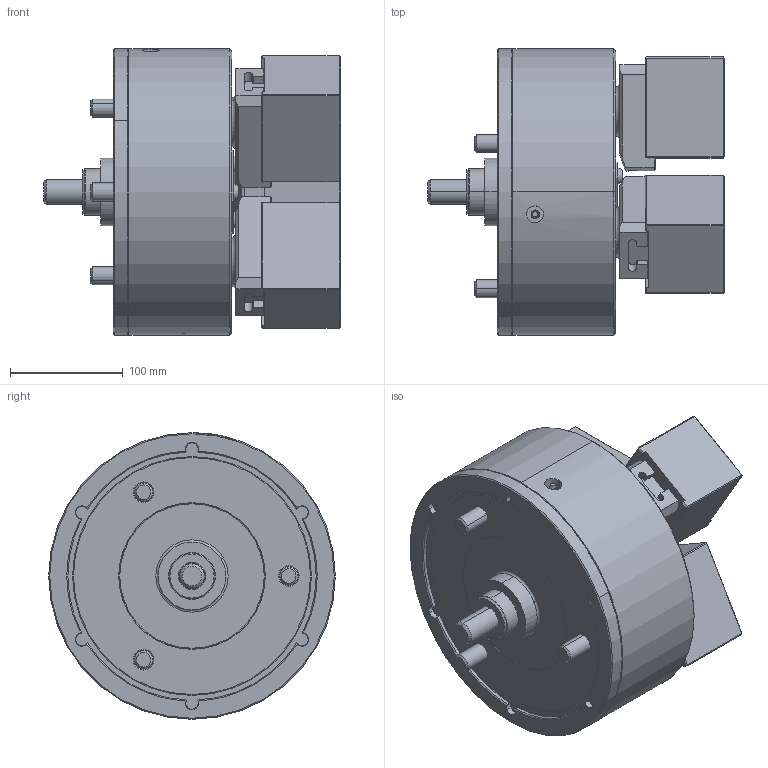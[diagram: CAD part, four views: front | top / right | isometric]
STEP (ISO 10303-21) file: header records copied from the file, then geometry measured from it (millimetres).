
FILE_DESCRIPTION (( 'STEP AP214' ), '1' );
FILE_NAME ('PW-10_CL_ID.STEP', '2019-10-07T05:23:08', ( '' ), ( '' ), 'SwSTEP 2.0', 'SolidWorks 2017', '' );
FILE_SCHEMA (( 'AUTOMOTIVE_DESIGN' ));
Length unit declared in the file: millimetre
Products named in the file (5): 結合_ID; 0030116025; 61P420193; 61P322899; PW-10_CL_ID
Assembly tree (13 placements, depth 2):
  PW-10_CL_ID
    61P322899  x3
    61P420193  x3
    0030116025  x6
    結合_ID
Bounding box: 262.8 x 254 x 254 mm (x, y, z)
Volume: 6672384.1 mm3; surface area: 497007.2 mm2
Topology: 13 solids, 14 shells, 1633 faces, 4060 edges, 2564 vertices
Faces by surface type: plane 828, cone 297, cylinder 261, bspline 189, torus 58
Entity records: 49278 total; most frequent: CARTESIAN_POINT 17987, ORIENTED_EDGE 6808, DIRECTION 5763, EDGE_CURVE 3404, VERTEX_POINT 2173, AXIS2_PLACEMENT_3D 1934, LINE 1895, VECTOR 1895
